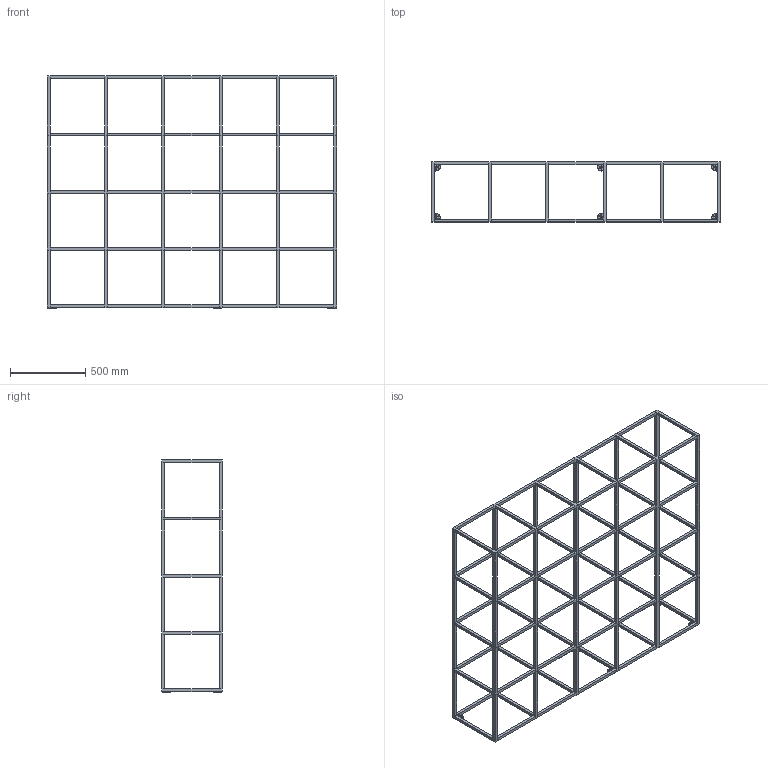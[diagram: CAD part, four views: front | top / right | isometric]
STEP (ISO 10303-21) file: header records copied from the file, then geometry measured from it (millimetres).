
FILE_DESCRIPTION(/* description */ (''),/* implementation_level */ '2;1');
FILE_NAME(/* name */ 'KINOSH~3',/* time_stamp */ '2021-07-29T19:50:48+09:00',/* author */ (''),/* organization */ (''),/* preprocessor_version */ 'ST-DEVELOPER v16.5',/* originating_system */ '',/* authorisation */ '');
FILE_SCHEMA (('AUTOMOTIVE_DESIGN'));
Length unit declared in the file: millimetre
Products named in the file (1): Document
Bounding box: 1924 x 400 x 1546.2 mm (x, y, z)
Volume: 17207783.4 mm3; surface area: 3607300.4 mm2
Topology: 13 solids, 13 shells, 662 faces, 1456 edges, 694 vertices
Faces by surface type: plane 608, bspline 54
Entity records: 16452 total; most frequent: CARTESIAN_POINT 5952, ORIENTED_EDGE 2912, EDGE_CURVE 1456, B_SPLINE_CURVE_WITH_KNOTS 1294, EDGE_LOOP 746, VERTEX_POINT 694, ADVANCED_FACE 662, FACE_OUTER_BOUND 662
